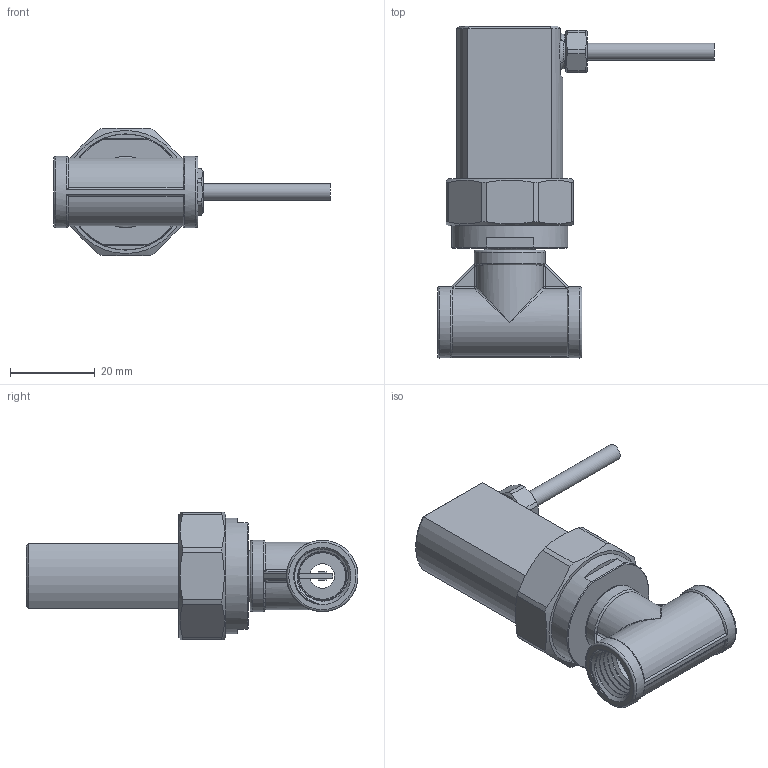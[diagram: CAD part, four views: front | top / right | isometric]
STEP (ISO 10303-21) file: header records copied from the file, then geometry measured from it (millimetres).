
FILE_DESCRIPTION(/* description */ (''),/* implementation_level */ '2;1');
FILE_NAME(/* name */ '572900_01_1-Mini-IL 1_4 Zoll.stp',/* time_stamp */ '2025-07-15T08:06:50+02:00',/* author */ (''),/* organization */ (''),/* preprocessor_version */ 'ST-DEVELOPER v19.4',/* originating_system */ 'SIEMENS PLM Software NX2306.8501',/* authorisation */ '');
FILE_SCHEMA (('AP203_CONFIGURATION_CONTROLLED_3D_DESIGN_OF_MECHANICAL_PARTS_AND_ASSEMBLIES_MIM_LF { 1 0 10303 403 2 1 2}'));
Length unit declared in the file: millimetre
Products named in the file (1): 01_objects
Bounding box: 65.2 x 78.2 x 30 mm (x, y, z)
Volume: 30300.3 mm3; surface area: 12560.5 mm2
Topology: 1 solids, 1 shells, 210 faces, 566 edges, 359 vertices
Faces by surface type: plane 97, cylinder 55, bspline 25, cone 20, torus 9, sphere 4
Full cylindrical faces by diameter (mm): 4 x1, 8 x1, 11 x2, 11.1 x1, 11.2 x1, 16.8 x2, 27.3 x1, 27.4 x1
Entity records: 11172 total; most frequent: CARTESIAN_POINT 4936, ORIENTED_EDGE 1010, DIRECTION 875, EDGE_CURVE 505, VERTEX_POINT 339, AXIS2_PLACEMENT_3D 325, EDGE_LOOP 260, LINE 225
